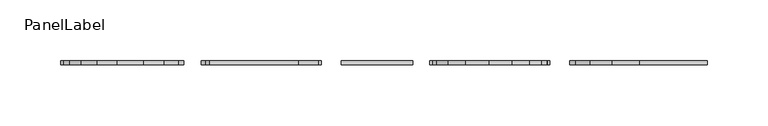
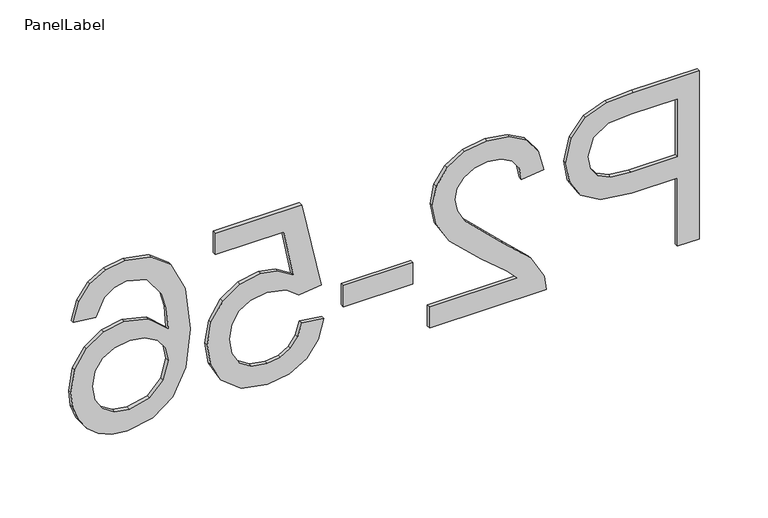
"""IFC4 building model written with IfcOpenShell, lengths in millimetres: fastener geometry, PanelLabel : Miranda."""

from ifc_helpers import new_model, si_unit, frame, origin, place, context, project, spatial, polyline, outline, extrude, source, transform, mapped, element, save


def panellabel_89169c42(model_context):
    return source(origin(), model_context, "Body", "SweptSolid", [
        extrude(outline(polyline([(1310.9113766, 260.2523077), (1460.9667612, 260.2523077), (1460.9667612, 204.6409615), (1459.5380112, 182.2205769), (1452.5224823, 163.9948558), (1438.0151747, 152.1801923), (1417.554742, 147.7107692), (1399.8693814, 150.7285457), (1385.1331073, 159.781875), (1375.1868093, 176.7116466), (1371.8713766, 203.35875), (1371.8713766, 241.4953846), (1310.9113766, 241.4953846), (1310.9113766, 260.2523077)]), holes=[polyline([(1390.6282997, 241.4953846), (1390.6282997, 202.2597115), (1392.3501266, 185.6275962), (1397.5156073, 174.6372115), (1405.8041891, 168.5100721), (1416.8953189, 166.4676923), (1432.4283958, 171.2851442), (1440.9276266, 183.9424038), (1442.2098381, 202.6993269), (1442.2098381, 241.4953846), (1390.6282997, 241.4953846)])]), frame((0.0, 60.325, 0.0), z_axis=(0.0, 1.0, 0.0), x_axis=(0.0, 0.0, 1.0)), (0.0, 0.0, 1.0), 3.175),
        extrude(outline(polyline([(1329.6682997, 32.8246154), (1310.9113766, 32.8246154), (1310.9113766, 131.2984615), (1323.8433958, 129.2835577), (1343.7543093, 117.8901923), (1365.4969535, 94.4074038), (1396.7462804, 62.0224038), (1407.5168573, 55.9502163), (1417.9943573, 53.9261538), (1427.3865569, 55.8357332), (1435.1943093, 61.5644712), (1440.4559559, 70.3705168), (1442.2098381, 81.5120192), (1440.4971698, 93.2121995), (1435.359165, 102.3021635), (1427.1988045, 108.1682813), (1416.4190689, 110.1969231), (1418.7636843, 128.9538462), (1436.9069775, 124.4065745), (1450.1595497, 114.5747596), (1458.2649583, 99.9712861), (1460.9667612, 81.1090385), (1457.9627227, 62.1094111), (1448.9506073, 47.5334135), (1435.4873862, 38.2602764), (1419.1300304, 35.1692308), (1401.3439247, 38.5029808), (1382.9533477, 49.5849519), (1357.254165, 76.4564423), (1339.211617, 98.0342308), (1329.6682997, 106.4968269), (1329.6682997, 32.8246154)])), frame((0.0, 60.325, 0.0), z_axis=(0.0, 1.0, 0.0), x_axis=(0.0, 0.0, 1.0)), (0.0, 0.0, 1.0), 3.175),
        extrude(outline(polyline([(-39.8584615, 63.5), (18.7569231, 63.5), (18.7569231, 60.325), (-39.8584615, 60.325), (-39.8584615, 63.5)])), frame((0.0, 0.0, 1355.4590689), z_axis=(0.0, 0.0, 1.0), x_axis=(1.0, 0.0, 0.0)), (0.0, 0.0, 1.0), 18.7569231),
        extrude(outline(polyline([(1350.7698381, -56.2707692), (1353.1144535, -75.0276923), (1341.8538886, -78.4713462), (1333.7896939, -84.4794231), (1328.9401867, -93.0244471), (1327.3236843, -104.0789423), (1329.5721338, -117.5238462), (1336.3174823, -127.5983654), (1346.7812444, -133.8903606), (1360.1849343, -135.9876923), (1372.8055593, -134.0231611), (1382.4587804, -128.1295673), (1388.5859198, -118.2611178), (1390.6282997, -104.3720192), (1387.3678189, -87.9047596), (1378.9052227, -77.3723077), (1381.2498381, -58.6153846), (1458.6221458, -75.0276923), (1458.6221458, -147.7107692), (1439.8652227, -147.7107692), (1439.8652227, -90.1944231), (1398.5413766, -82.1714423), (1406.6742612, -95.5705529), (1409.3852227, -109.6107692), (1406.0239968, -127.1358534), (1395.9403189, -141.684375), (1380.5720977, -151.4795553), (1361.357242, -154.7446154), (1342.6003189, -151.8046875), (1326.5543573, -142.9849038), (1313.0636602, -126.0963462), (1308.5667612, -104.0056731), (1311.4563165, -85.5830409), (1320.1249823, -70.9062981), (1333.5653069, -60.8455168), (1350.7698381, -56.2707692)])), frame((0.0, 60.325, 0.0), z_axis=(0.0, 1.0, 0.0), x_axis=(0.0, 0.0, 1.0)), (0.0, 0.0, 1.0), 3.175),
        extrude(outline(polyline([(1421.1082997, -267.2861538), (1418.7636843, -248.5292308), (1434.406665, -241.4221154), (1440.2590448, -232.913726), (1442.2098381, -222.6285577), (1437.6671458, -205.7033654), (1420.6137323, -192.8995673), (1406.6422059, -189.0117187), (1387.1846458, -187.5692308), (1402.1498862, -204.1097596), (1407.0406073, -224.6068269), (1403.6976987, -241.935), (1393.6689727, -256.4789423), (1378.3465448, -266.3428125), (1359.1225304, -269.6307692), (1345.6913646, -268.0829567), (1333.2401747, -263.4395192), (1322.6802468, -256.0851202), (1314.922867, -246.4044231), (1310.1557876, -234.8370433), (1308.5667612, -221.8225962), (1312.779742, -200.5424639), (1325.4186843, -183.594375), (1347.729165, -172.5078245), (1380.9567612, -168.8123077), (1418.3149102, -172.9153846), (1443.8583958, -185.2246154), (1456.6896698, -202.0307452), (1460.9667612, -223.8008654), (1458.3199102, -240.2589663), (1450.3793573, -253.4382692), (1437.767891, -262.6701923), (1421.1082997, -267.2861538)]), holes=[polyline([(1359.4156073, -187.5692308), (1343.1681554, -191.9104327), (1331.3718093, -203.4503365), (1327.3236843, -220.3572115), (1329.421016, -232.7351322), (1335.7130112, -242.4662019), (1345.6043573, -248.7719351), (1358.499742, -250.8738462), (1370.8776626, -248.7994111), (1380.3156554, -242.5761058), (1386.2916771, -232.6801803), (1388.2836843, -219.5878846), (1386.2916771, -207.2282812), (1380.3156554, -196.8927404), (1371.106629, -189.9001082), (1359.4156073, -187.5692308)])]), frame((0.0, 60.325, 0.0), z_axis=(0.0, 1.0, 0.0), x_axis=(0.0, 0.0, 1.0)), (0.0, 0.0, 1.0), 3.175),
    ])


if __name__ == "__main__":
    model = new_model("IFC4")
    model_context = context("Model", 3, world=origin())
    ifc_project = project(units=[si_unit("LENGTHUNIT", "METRE", prefix="MILLI")], contexts=[model_context])
    site = spatial("IfcSite", under=ifc_project)
    building = spatial("IfcBuilding", under=site)
    placement = place(None, origin())
    panellabel_shape = panellabel_89169c42(model_context)
    element("IfcFastener", 1, ObjectType="PanelLabel : Miranda", at=placement, inside=building, context=model_context, shape_type="MappedRepresentation", body=[
        mapped(panellabel_shape, transform((0.0, 0.0, 0.0), x_axis=(1.0, 0.0, 0.0), y_axis=(0.0, 1.0, 0.0), z_axis=(0.0, 0.0, 1.0))),
    ])
    save(model, "model.ifc")
